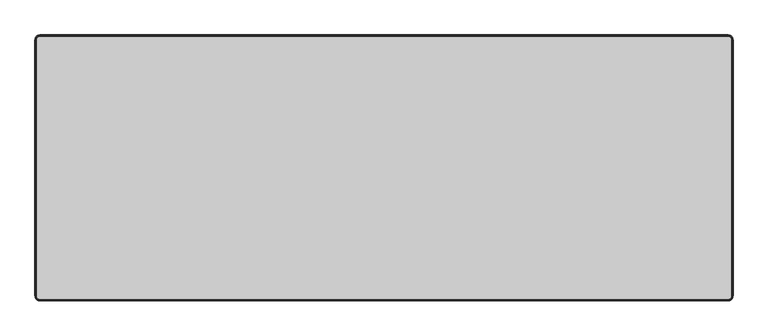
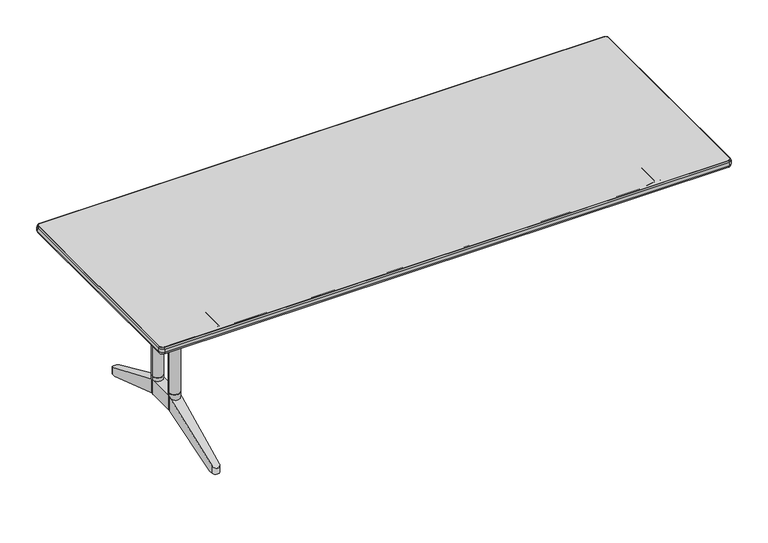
"""IFC4 building model written with IfcOpenShell, lengths in millimetres: furniture geometry."""

from ifc_helpers import new_model, si_unit, point, frame, frame_2d, origin, place, context, project, spatial, polyline, circle_curve, ellipse_curve, trimmed, segment, composite_curve, outline, extrude, source, transform, mapped, element, save
from ifc_brep_helpers import plane_surface, cylinder_surface, revolved_surface, advanced_brep


def furniture_6e6cd4ee(model_context):
    return source(origin(), model_context, "Body", "SolidModel", [
        extrude(outline(composite_curve([segment(trimmed(circle_curve(frame_2d((-812.8, -154.0488451)), 20.0), [point((-832.8, -154.0488451))], [point((-792.8, -154.0488451))], False, "CARTESIAN"), True, "CONTINUOUS"), segment(trimmed(circle_curve(frame_2d((-812.8, -154.0488451)), 20.0), [point((-792.8, -154.0488451))], [point((-832.8, -154.0488451))], False, "CARTESIAN"), True, "CONTINUOUS")], self_intersect=False)), frame((0.0, 0.0, 193.3080085), z_axis=(0.0, 0.0, 1.0), x_axis=(1.0, 0.0, 0.0)), (0.0, 0.0, 1.0), 68.8536941),
        extrude(outline(composite_curve([segment(trimmed(circle_curve(frame_2d((-812.8, -44.0488461)), 20.0), [point((-832.8, -44.0488461))], [point((-792.8, -44.0488461))], False, "CARTESIAN"), True, "CONTINUOUS"), segment(trimmed(circle_curve(frame_2d((-812.8, -44.0488461)), 20.0), [point((-792.8, -44.0488461))], [point((-832.8, -44.0488461))], False, "CARTESIAN"), True, "CONTINUOUS")], self_intersect=False)), frame((0.0, 0.0, 193.3080085), z_axis=(0.0, 0.0, 1.0), x_axis=(1.0, 0.0, 0.0)), (0.0, 0.0, 1.0), 68.8536941),
        extrude(outline(composite_curve([segment(trimmed(circle_curve(frame_2d((-812.8, -154.0488451)), 20.0), [point((-832.8, -154.0488451))], [point((-792.8, -154.0488451))], False, "CARTESIAN"), True, "CONTINUOUS"), segment(trimmed(circle_curve(frame_2d((-812.8, -154.0488451)), 20.0), [point((-792.8, -154.0488451))], [point((-832.8, -154.0488451))], False, "CARTESIAN"), True, "CONTINUOUS")], self_intersect=False)), frame((0.0, 0.0, 262.1617027), z_axis=(0.0, 0.0, 1.0), x_axis=(1.0, 0.0, 0.0)), (0.0, 0.0, 1.0), 318.0882973),
        extrude(outline(composite_curve([segment(trimmed(circle_curve(frame_2d((-812.8, -44.0488461)), 20.0), [point((-832.8, -44.0488461))], [point((-792.8, -44.0488461))], False, "CARTESIAN"), True, "CONTINUOUS"), segment(trimmed(circle_curve(frame_2d((-812.8, -44.0488461)), 20.0), [point((-792.8, -44.0488461))], [point((-832.8, -44.0488461))], False, "CARTESIAN"), True, "CONTINUOUS")], self_intersect=False)), frame((0.0, 0.0, 262.1617027), z_axis=(0.0, 0.0, 1.0), x_axis=(1.0, 0.0, 0.0)), (0.0, 0.0, 1.0), 318.0882973),
        extrude(outline(polyline([(-786.7999882, 147.9511612), (-786.7999882, -352.0488426), (-838.8000118, -352.0488426), (-838.8000118, 147.9511612), (-786.7999882, 147.9511612)])), frame((0.0, 0.0, 676.2500168), z_axis=(0.0, 0.0, 1.0), x_axis=(1.0, 0.0, 0.0)), (0.0, 0.0, 1.0), 27.9999624),
        advanced_brep(
        [(-827.7998762, -140.8200278, 676.2500168), (-797.7998905, -140.8201331, 676.2500168), (-797.7998905, -134.0488456, 676.2500168), (-827.7998762, -134.0488456, 676.2500168), (-797.7998905, -57.2775581, 676.2500168), (-827.7998762, -57.2776634, 676.2500168), (-827.7998762, -64.0488456, 676.2500168), (-797.7998905, -64.0488456, 676.2500168), (-827.7998762, -57.2776634, 580.25), (-797.7998905, -57.2775581, 580.25), (-797.7998905, -140.8201331, 580.25), (-827.7998762, -140.8200278, 580.25), (-827.7998762, -134.0488456, 598.2500176), (-827.7998762, -64.0488456, 598.2500176), (-797.7998905, -64.0488456, 598.2500176), (-797.7998905, -134.0488456, 598.2500176)],
        [
            (0, 1, circle_curve(frame((-812.7999298, -154.0488451, 676.2500168), z_axis=(0.0, 0.0, 1.0), x_axis=(1.0, 0.0, 0.0)), 20.0)),
            (1, 2),
            (2, 3),
            (3, 0),
            (4, 5, circle_curve(frame((-812.7999298, -44.0488461, 676.2500168), z_axis=(0.0, 0.0, 1.0), x_axis=(1.0, 0.0, 0.0)), 20.0)),
            (5, 6),
            (6, 7),
            (7, 4),
            (8, 9, circle_curve(frame((-812.7999298, -44.0488461, 580.25), z_axis=(0.0, 0.0, -1.0), x_axis=(1.0, 0.0, 0.0)), 20.0)),
            (9, 10),
            (10, 11, circle_curve(frame((-812.7999298, -154.0488451, 580.25), z_axis=(0.0, 0.0, -1.0), x_axis=(1.0, 0.0, 0.0)), 20.0)),
            (11, 8),
            (11, 0),
            (3, 12),
            (12, 13),
            (13, 6),
            (5, 8),
            (10, 1),
            (9, 4),
            (7, 14),
            (14, 15),
            (15, 2),
            (15, 12),
            (14, 13),
        ],
        [
            plane_surface(frame((-827.7998762, -140.8200278, 676.2500168), z_axis=(0.0, 0.0, 1.0), x_axis=(0.0, -1.0, 0.0))),
            plane_surface(frame((-827.7998762, -140.8200278, 580.25), z_axis=(0.0, 0.0, -1.0), x_axis=(0.0, 1.0, 0.0))),
            plane_surface(frame((-827.7998762, -57.2776634, 676.2500168), z_axis=(-1.0, 0.0, 0.0), x_axis=(0.0, 0.0, -1.0))),
            cylinder_surface(frame((-812.7999298, -154.0488451, 580.25), z_axis=(0.0, 0.0, 1.0), x_axis=(1.0, 0.0, 0.0)), 20.0),
            plane_surface(frame((-797.7998905, -140.8201331, 676.2500168), z_axis=(1.0, 0.0, 0.0), x_axis=(0.0, 0.0, -1.0))),
            cylinder_surface(frame((-812.7999298, -44.0488461, 580.25), z_axis=(0.0, 0.0, 1.0), x_axis=(1.0, 0.0, 0.0)), 20.0),
            plane_surface(frame((-797.7998905, -134.0488456, 676.2500168), z_axis=(0.0, 1.0, 0.0), x_axis=(-1.0, 0.0, 0.0))),
            plane_surface(frame((-797.7998905, -134.0488456, 598.2500176), z_axis=(0.0, 0.0, 1.0), x_axis=(-1.0, 0.0, 0.0))),
            plane_surface(frame((-797.7998905, -64.0488456, 598.2500176), z_axis=(0.0, -1.0, 0.0), x_axis=(-1.0, 0.0, 0.0))),
        ],
        [
            (0, [[1, 2, 3, 4]]),
            (0, [[5, 6, 7, 8]]),
            (1, [[9, 10, 11, 12]]),
            (2, [[-12, 13, -4, 14, 15, 16, -6, 17]]),
            (3, [[-1, -13, -11, 18]]),
            (4, [[-10, 19, -8, 20, 21, 22, -2, -18]]),
            (5, [[-5, -19, -9, -17]]),
            (6, [[23, -14, -3, -22]]),
            (7, [[-23, -21, 24, -15]]),
            (8, [[-24, -20, -7, -16]]),
        ],
    ),
        advanced_brep(
        [(-792.8000182, -154.0488451, 248.3080085), (-792.8000182, -44.0488461, 248.3080085), (-832.8000182, -44.0488461, 248.3080085), (-832.8000182, -154.0488451, 248.3080085), (-832.8000182, -44.0488461, 193.3080085), (-832.8000182, -154.0488451, 193.3080085), (-792.8000182, -154.0488451, 193.3080085), (-792.8000182, -44.0488461, 193.3080085), (-799.3271049, 208.4135103, 105.0), (-826.272897, 208.4135103, 105.0), (-825.9262294, 221.8222582, 105.0), (-799.6737706, 221.8222564, 105.0), (-825.9262294, 221.8222582, 133.4205559), (-799.6737706, 221.8222564, 133.4205567), (-793.0000412, -36.3121196, 193.3080085), (-832.5999941, -36.3121196, 193.3080085), (-799.6737706, -419.9199475, 133.4205567), (-825.9262294, -419.9199493, 133.4205559), (-799.6737706, -419.9199475, 105.0), (-799.3271049, -406.5112014, 105.0), (-793.0000412, -161.7855715, 193.3080085), (-825.9262294, -419.9199493, 105.0), (-832.5999941, -161.7855715, 193.3080085), (-826.272897, -406.5112014, 105.0)],
        [
            (0, 1),
            (1, 2),
            (2, 3),
            (3, 0),
            (2, 4),
            (4, 5),
            (5, 3),
            (0, 6),
            (6, 7),
            (7, 1),
            (8, 9),
            (9, 10),
            (10, 11, circle_curve(frame((-812.8, 221.4828948, 105.0), z_axis=(0.0, 0.0, -1.0), x_axis=(1.0, 0.0, 0.0)), 13.1306156)),
            (11, 8),
            (12, 2),
            (1, 13),
            (13, 12, ellipse_curve(frame((-812.8, 221.4828948, 133.5672007), z_axis=(0.0, 0.3966672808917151, 0.9179624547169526), x_axis=(0.0, 0.9179624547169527, -0.39666728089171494)), 14.3040878, 13.1306156)),
            (8, 14),
            (14, 15),
            (15, 9),
            (16, 0),
            (3, 17),
            (17, 16, ellipse_curve(frame((-812.8, -419.5805859, 133.5672007), z_axis=(0.0, -0.3966672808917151, 0.9179624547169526), x_axis=(0.0, -0.9179624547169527, -0.39666728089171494)), 14.3040878, 13.1306156)),
            (16, 18),
            (18, 19),
            (19, 20),
            (20, 6),
            (17, 21),
            (21, 18, circle_curve(frame((-812.8, -419.5805859, 105.0), z_axis=(0.0, 0.0, 1.0), x_axis=(1.0, 0.0, 0.0)), 13.1306156)),
            (5, 22),
            (22, 23),
            (23, 21),
            (12, 10),
            (15, 4),
            (13, 11),
            (7, 14),
            (23, 19),
            (22, 20),
        ],
        [
            plane_surface(frame((-792.8000182, -44.0488461, 248.3080085), z_axis=(0.0, 0.0, 1.0), x_axis=(0.0, 1.0, 0.0))),
            plane_surface(frame((-832.8000182, -44.0488461, 248.3080085), z_axis=(-1.0, 0.0, 0.0), x_axis=(0.0, 0.0, -1.0))),
            plane_surface(frame((-792.8000182, -154.0488451, 248.3080085), z_axis=(1.0, 0.0, 0.0), x_axis=(0.0, 0.0, -1.0))),
            plane_surface(frame((-791.4205415, 208.4135103, 105.0), z_axis=(0.0, 0.0, -1.0), x_axis=(-1.0, 0.0, 0.0))),
            plane_surface(frame((-791.4205415, 235.9511544, 127.3152182), z_axis=(0.0, 0.3966672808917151, 0.9179624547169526), x_axis=(-1.0, 0.0, 0.0))),
            plane_surface(frame((-791.4205415, -36.3121196, 193.3080085), z_axis=(0.0, -0.3394229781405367, -0.9406338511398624), x_axis=(-1.0, 0.0, 0.0))),
            plane_surface(frame((-791.4205415, -154.0488451, 248.3080085), z_axis=(0.0, -0.3966672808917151, 0.9179624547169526), x_axis=(-1.0, 0.0, 0.0))),
            plane_surface(frame((-792.8000182, -154.0488451, 249.0000084), z_axis=(0.9996659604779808, -0.025845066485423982, 0.0), x_axis=(0.0, 0.0, -1.0))),
            cylinder_surface(frame((-812.8, -419.5805859, 90.0000025), z_axis=(0.0, 0.0, -1.0), x_axis=(1.0, 0.0, 0.0)), 13.1306156),
            plane_surface(frame((-825.9262294, -419.9199493, 249.0000084), z_axis=(-0.9996659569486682, -0.025845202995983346, 0.0), x_axis=(0.0, 0.0, -1.0))),
            plane_surface(frame((-832.8000182, -44.0488461, 249.0000084), z_axis=(-0.9996659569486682, 0.025845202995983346, 0.0), x_axis=(0.0, 0.0, -1.0))),
            cylinder_surface(frame((-812.8, 221.4828948, 0.0), z_axis=(0.0, 0.0, -1.0), x_axis=(1.0, 0.0, 0.0)), 13.1306156),
            plane_surface(frame((-799.6737706, 221.8222564, 249.0000084), z_axis=(0.9996659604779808, 0.025845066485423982, 0.0), x_axis=(0.0, 0.0, -1.0))),
            plane_surface(frame((-791.4205415, -434.0488456, 105.0), z_axis=(0.0, 0.0, -1.0), x_axis=(-1.0, 0.0, 0.0))),
            plane_surface(frame((-791.4205415, -406.5112014, 105.0), z_axis=(0.0, 0.3394229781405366, -0.9406338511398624), x_axis=(-1.0, 0.0, 0.0))),
            plane_surface(frame((-791.4205415, -44.0488461, 193.3080085), z_axis=(0.0, 0.0, -1.0), x_axis=(-1.0, 0.0, 0.0))),
        ],
        [
            (0, [[1, 2, 3, 4]]),
            (1, [[-3, 5, 6, 7]]),
            (2, [[-1, 8, 9, 10]]),
            (3, [[11, 12, 13, 14]]),
            (4, [[15, -2, 16, 17]]),
            (5, [[-11, 18, 19, 20]]),
            (6, [[21, -4, 22, 23]]),
            (7, [[24, 25, 26, 27, -8, -21]]),
            (8, [[-24, -23, 28, 29]]),
            (9, [[-28, -22, -7, 30, 31, 32]]),
            (10, [[33, -12, -20, 34, -5, -15]]),
            (11, [[-33, -17, 35, -13]]),
            (12, [[-35, -16, -10, 36, -18, -14]]),
            (13, [[37, -25, -29, -32]]),
            (14, [[-37, -31, 38, -26]]),
            (15, [[-19, -36, -9, -27, -38, -30, -6, -34]]),
        ],
    ),
        extrude(outline(composite_curve([segment(trimmed(circle_curve(frame_2d((-1051.8, 292.3511544)), 10.0), [point((-1061.8, 292.3511544))], [point((-1051.8, 302.3511544))], False, "CARTESIAN"), True, "CONTINUOUS"), segment(polyline([(-1051.8, 302.3511544), (1051.8, 302.3511544)]), True, "CONTINUOUS"), segment(trimmed(circle_curve(frame_2d((1051.8, 292.3511544)), 10.0), [point((1051.8, 302.3511544))], [point((1061.8, 292.3511544))], False, "CARTESIAN"), True, "CONTINUOUS"), segment(polyline([(1061.8, 292.3511544), (1061.8, -490.4488456)]), True, "CONTINUOUS"), segment(trimmed(circle_curve(frame_2d((1051.8, -490.4488456)), 10.0), [point((1061.8, -490.4488456))], [point((1051.8, -500.4488456))], False, "CARTESIAN"), True, "CONTINUOUS"), segment(polyline([(1051.8, -500.4488456), (-1051.8, -500.4488456)]), True, "CONTINUOUS"), segment(trimmed(circle_curve(frame_2d((-1051.8, -490.4488456)), 10.0), [point((-1051.8, -500.4488456))], [point((-1061.8, -490.4488456))], False, "CARTESIAN"), True, "CONTINUOUS"), segment(polyline([(-1061.8, -490.4488456), (-1061.8, 292.3511544)]), True, "CONTINUOUS")], self_intersect=False)), frame((0.0, 0.0, 704.2499792), z_axis=(0.0, 0.0, 1.0), x_axis=(1.0, 0.0, 0.0)), (0.0, 0.0, 1.0), 26.0000208),
        extrude(outline(composite_curve([segment(trimmed(circle_curve(frame_2d((690.249998, -812.8)), 3.5), [point((686.749998, -812.8))], [point((693.749998, -812.8))], False, "CARTESIAN"), True, "CONTINUOUS"), segment(trimmed(circle_curve(frame_2d((690.249998, -812.8)), 3.5), [point((693.749998, -812.8))], [point((686.749998, -812.8))], False, "CARTESIAN"), True, "CONTINUOUS")], self_intersect=False)), frame((0.0, -431.8394749, 0.0), z_axis=(0.0, 1.0, 0.0), x_axis=(0.0, 0.0, 1.0)), (0.0, 0.0, 1.0), 79.7906323),
        extrude(outline(composite_curve([segment(trimmed(circle_curve(frame_2d((690.249998, 812.8)), 3.5), [point((686.749998, 812.8))], [point((693.749998, 812.8))], False, "CARTESIAN"), True, "CONTINUOUS"), segment(trimmed(circle_curve(frame_2d((690.249998, 812.8)), 3.5), [point((693.749998, 812.8))], [point((686.749998, 812.8))], False, "CARTESIAN"), True, "CONTINUOUS")], self_intersect=False)), frame((0.0, -431.8394749, 0.0), z_axis=(0.0, 1.0, 0.0), x_axis=(0.0, 0.0, 1.0)), (0.0, 0.0, 1.0), 79.7906323),
        advanced_brep(
        [(-1051.8, -500.4488456, 704.2499792), (-1061.8, -490.4488456, 704.2499792), (-1061.8, -490.4488456, 730.25), (-1051.8, -500.4488456, 730.25), (-1051.8, -503.8983863, 710.6562743), (-1065.2495407, -490.4488456, 710.6562743), (-1063.0436764, -490.4488456, 704.2499792), (-1051.8, -501.692522, 704.2499792), (-1051.8, -503.8983863, 723.843705), (-1065.2495407, -490.4488456, 723.843705), (-1051.8, -501.692522, 730.25), (-1063.0436764, -490.4488456, 730.25), (1051.8, -500.4488456, 730.25), (1051.8, -500.4488456, 704.2499792), (1051.8, -501.692522, 704.2499792), (1051.8, -503.8983863, 710.6562743), (1051.8, -503.8983863, 723.843705), (1051.8, -501.692522, 730.25), (1061.8, -490.4488456, 704.2499792), (1061.8, -490.4488456, 730.25), (1065.2495407, -490.4488456, 710.6562743), (1063.0436764, -490.4488456, 704.2499792), (1065.2495407, -490.4488456, 723.843705), (1063.0436764, -490.4488456, 730.25), (1061.8, 292.3511544, 730.25), (1061.8, 292.3511544, 704.2499792), (1063.0436764, 292.3511544, 704.2499792), (1065.2495407, 292.3511544, 710.6562743), (1065.2495407, 292.3511544, 723.843705), (1063.0436764, 292.3511544, 730.25), (1051.8, 302.3511544, 704.2499792), (1051.8, 302.3511544, 730.25), (1051.8, 305.8006952, 710.6562743), (1051.8, 303.5948309, 704.2499792), (1051.8, 305.8006952, 723.843705), (1051.8, 303.5948309, 730.25), (-1051.8, 302.3511544, 730.25), (-1051.8, 302.3511544, 704.2499792), (-1051.8, 303.5948309, 704.2499792), (-1051.8, 305.8006952, 710.6562743), (-1051.8, 305.8006952, 723.843705), (-1051.8, 303.5948309, 730.25), (-1061.8, 292.3511544, 704.2499792), (-1061.8, 292.3511544, 730.25), (-1065.2495407, 292.3511544, 710.6562743), (-1063.0436764, 292.3511544, 704.2499792), (-1065.2495407, 292.3511544, 723.843705), (-1063.0436764, 292.3511544, 730.25)],
        [
            (0, 1, circle_curve(frame((-1051.8, -490.4488456, 704.2499792), z_axis=(0.0, 0.0, -1.0), x_axis=(-1.0, 0.0, 0.0)), 10.0)),
            (1, 2),
            (2, 3, circle_curve(frame((-1051.8, -490.4488456, 730.25), z_axis=(0.0, 0.0, 1.0), x_axis=(-1.0, 0.0, 0.0)), 10.0)),
            (3, 0),
            (4, 5, circle_curve(frame((-1051.8, -490.4488456, 710.6562743), z_axis=(0.0, 0.0, -1.0), x_axis=(-1.0, 0.0, 0.0)), 13.4495407)),
            (5, 6),
            (6, 7, circle_curve(frame((-1051.8, -490.4488456, 704.2499792), z_axis=(0.0, 0.0, 1.0), x_axis=(-1.0, 0.0, 0.0)), 11.2436764)),
            (7, 4),
            (8, 9, circle_curve(frame((-1051.8, -490.4488456, 723.843705), z_axis=(0.0, 0.0, -1.0), x_axis=(-1.0, 0.0, 0.0)), 13.4495407)),
            (9, 5, circle_curve(frame((-1052.0040596, -490.4488456, 717.2499896), z_axis=(0.0, -1.0, 0.0), x_axis=(1.0, 0.0, 0.0)), 14.7959404)),
            (4, 8, circle_curve(frame((-1051.8, -490.6529051, 717.2499896), z_axis=(-1.0, 0.0, 0.0), x_axis=(0.0, 1.0, 0.0)), 14.7959404)),
            (10, 11, circle_curve(frame((-1051.8, -490.4488456, 730.25), z_axis=(0.0, 0.0, -1.0), x_axis=(-1.0, 0.0, 0.0)), 11.2436764)),
            (11, 9),
            (8, 10),
            (3, 12),
            (12, 13),
            (13, 0),
            (7, 14),
            (14, 15),
            (15, 4),
            (15, 16, circle_curve(frame((1051.8, -490.6529051, 717.2499896), z_axis=(-1.0, 0.0, 0.0), x_axis=(0.0, 1.0, 0.0)), 14.7959404)),
            (16, 8),
            (16, 17),
            (17, 10),
            (18, 13, circle_curve(frame((1051.8, -490.4488456, 704.2499792), z_axis=(0.0, 0.0, -1.0), x_axis=(0.0, -1.0, 0.0)), 10.0)),
            (12, 19, circle_curve(frame((1051.8, -490.4488456, 730.25), z_axis=(0.0, 0.0, 1.0), x_axis=(0.0, -1.0, 0.0)), 10.0)),
            (19, 18),
            (20, 15, circle_curve(frame((1051.8, -490.4488456, 710.6562743), z_axis=(0.0, 0.0, -1.0), x_axis=(0.0, -1.0, 0.0)), 13.4495407)),
            (14, 21, circle_curve(frame((1051.8, -490.4488456, 704.2499792), z_axis=(0.0, 0.0, 1.0), x_axis=(0.0, -1.0, 0.0)), 11.2436764)),
            (21, 20),
            (22, 16, circle_curve(frame((1051.8, -490.4488456, 723.843705), z_axis=(0.0, 0.0, -1.0), x_axis=(0.0, -1.0, 0.0)), 13.4495407)),
            (20, 22, circle_curve(frame((1052.0040596, -490.4488456, 717.2499896), z_axis=(0.0, -1.0, 0.0), x_axis=(-1.0, 0.0, 0.0)), 14.7959404)),
            (23, 17, circle_curve(frame((1051.8, -490.4488456, 730.25), z_axis=(0.0, 0.0, -1.0), x_axis=(0.0, -1.0, 0.0)), 11.2436764)),
            (22, 23),
            (19, 24),
            (24, 25),
            (25, 18),
            (21, 26),
            (26, 27),
            (27, 20),
            (27, 28, circle_curve(frame((1052.0040596, 292.3511544, 717.2499896), z_axis=(0.0, -1.0, 0.0), x_axis=(-1.0, 0.0, 0.0)), 14.7959404)),
            (28, 22),
            (28, 29),
            (29, 23),
            (30, 25, circle_curve(frame((1051.8, 292.3511544, 704.2499792), z_axis=(0.0, 0.0, -1.0), x_axis=(1.0, 0.0, 0.0)), 10.0)),
            (24, 31, circle_curve(frame((1051.8, 292.3511544, 730.25), z_axis=(0.0, 0.0, 1.0), x_axis=(1.0, 0.0, 0.0)), 10.0)),
            (31, 30),
            (32, 27, circle_curve(frame((1051.8, 292.3511544, 710.6562743), z_axis=(0.0, 0.0, -1.0), x_axis=(1.0, 0.0, 0.0)), 13.4495407)),
            (26, 33, circle_curve(frame((1051.8, 292.3511544, 704.2499792), z_axis=(0.0, 0.0, 1.0), x_axis=(1.0, 0.0, 0.0)), 11.2436764)),
            (33, 32),
            (34, 28, circle_curve(frame((1051.8, 292.3511544, 723.843705), z_axis=(0.0, 0.0, -1.0), x_axis=(1.0, 0.0, 0.0)), 13.4495407)),
            (32, 34, circle_curve(frame((1051.8, 292.555214, 717.2499896), z_axis=(1.0, 0.0, 0.0), x_axis=(0.0, -1.0, 0.0)), 14.7959404)),
            (35, 29, circle_curve(frame((1051.8, 292.3511544, 730.25), z_axis=(0.0, 0.0, -1.0), x_axis=(1.0, 0.0, 0.0)), 11.2436764)),
            (34, 35),
            (31, 36),
            (36, 37),
            (37, 30),
            (33, 38),
            (38, 39),
            (39, 32),
            (39, 40, circle_curve(frame((-1051.8, 292.555214, 717.2499896), z_axis=(1.0, 0.0, 0.0), x_axis=(0.0, -1.0, 0.0)), 14.7959404)),
            (40, 34),
            (40, 41),
            (41, 35),
            (42, 37, circle_curve(frame((-1051.8, 292.3511544, 704.2499792), z_axis=(0.0, 0.0, -1.0), x_axis=(0.0, 1.0, 0.0)), 10.0)),
            (36, 43, circle_curve(frame((-1051.8, 292.3511544, 730.25), z_axis=(0.0, 0.0, 1.0), x_axis=(0.0, 1.0, 0.0)), 10.0)),
            (43, 42),
            (44, 39, circle_curve(frame((-1051.8, 292.3511544, 710.6562743), z_axis=(0.0, 0.0, -1.0), x_axis=(0.0, 1.0, 0.0)), 13.4495407)),
            (38, 45, circle_curve(frame((-1051.8, 292.3511544, 704.2499792), z_axis=(0.0, 0.0, 1.0), x_axis=(0.0, 1.0, 0.0)), 11.2436764)),
            (45, 44),
            (46, 40, circle_curve(frame((-1051.8, 292.3511544, 723.843705), z_axis=(0.0, 0.0, -1.0), x_axis=(0.0, 1.0, 0.0)), 13.4495407)),
            (44, 46, circle_curve(frame((-1052.0040596, 292.3511544, 717.2499896), z_axis=(0.0, 1.0, 0.0), x_axis=(1.0, 0.0, 0.0)), 14.7959404)),
            (47, 41, circle_curve(frame((-1051.8, 292.3511544, 730.25), z_axis=(0.0, 0.0, -1.0), x_axis=(0.0, 1.0, 0.0)), 11.2436764)),
            (46, 47),
            (43, 2),
            (1, 42),
            (45, 6),
            (5, 44),
            (9, 46),
            (11, 47),
        ],
        [
            revolved_surface(polyline([(-1061.8, -490.4488456, 730.25), (-1061.8, -490.4488456, 704.2499792)]), (-1051.8, -490.4488456, 730.25), (0.0, 0.0, 1.0)),
            revolved_surface(polyline([(-1063.0436764, -490.4488456, 704.2499792), (-1065.2495407, -490.4488456, 710.6562743)]), (-1051.8, -490.4488456, 730.25), (0.0, 0.0, 1.0)),
            revolved_surface(trimmed(ellipse_curve(frame((-1052.0040596, -490.4488456, 717.2499896), z_axis=(0.0, 1.0, 0.0), x_axis=(1.0, 0.0, 0.0)), 14.7959404, 14.7959404), [point((-1065.2495407, -490.4488456, 710.6562743))], [point((-1065.2495407, -490.4488456, 723.843705))], True, "CARTESIAN"), (-1051.8, -490.4488456, 730.25), (0.0, 0.0, 1.0)),
            revolved_surface(polyline([(-1065.2495407, -490.4488456, 723.843705), (-1063.0436764, -490.4488456, 730.25)]), (-1051.8, -490.4488456, 730.25), (0.0, 0.0, 1.0)),
            plane_surface(frame((-1051.8, -500.4488456, 730.25), z_axis=(0.0, 1.0, 0.0), x_axis=(1.0, 0.0, 0.0))),
            plane_surface(frame((-1051.8, -501.692522, 704.2499792), z_axis=(0.0, -0.9455185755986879, -0.32556815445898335), x_axis=(1.0, 0.0, 0.0))),
            cylinder_surface(frame((-1051.8, -490.6529051, 717.2499896), z_axis=(-1.0, 0.0, 0.0), x_axis=(0.0, 1.0, 0.0)), 14.7959404),
            plane_surface(frame((-1051.8, -503.8983863, 723.843705), z_axis=(0.0, -0.945518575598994, 0.32556815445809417), x_axis=(1.0, 0.0, 0.0))),
            revolved_surface(polyline([(1051.8, -500.4488456, 730.25), (1051.8, -500.4488456, 704.2499792)]), (1051.8, -490.4488456, 730.25), (0.0, 0.0, 1.0)),
            revolved_surface(polyline([(1051.8, -501.692522, 704.2499792), (1051.8, -503.8983863, 710.6562743)]), (1051.8, -490.4488456, 730.25), (0.0, 0.0, 1.0)),
            revolved_surface(trimmed(ellipse_curve(frame((1051.8, -490.6529051, 717.2499896), z_axis=(-1.0, 0.0, 0.0), x_axis=(0.0, 1.0, 0.0)), 14.7959404, 14.7959404), [point((1051.8, -503.8983863, 710.6562743))], [point((1051.8, -503.8983863, 723.843705))], True, "CARTESIAN"), (1051.8, -490.4488456, 730.25), (0.0, 0.0, 1.0)),
            revolved_surface(polyline([(1051.8, -503.8983863, 723.843705), (1051.8, -501.692522, 730.25)]), (1051.8, -490.4488456, 730.25), (0.0, 0.0, 1.0)),
            plane_surface(frame((1061.8, -490.4488456, 730.25), z_axis=(-1.0, 0.0, 0.0), x_axis=(0.0, 1.0, 0.0))),
            plane_surface(frame((1063.0436764, -490.4488456, 704.2499792), z_axis=(0.9455185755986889, 0.0, -0.32556815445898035), x_axis=(0.0, 1.0, 0.0))),
            cylinder_surface(frame((1052.0040596, -490.4488456, 717.2499896), z_axis=(0.0, -1.0, 0.0), x_axis=(-1.0, 0.0, 0.0)), 14.7959404),
            plane_surface(frame((1065.2495407, -490.4488456, 723.843705), z_axis=(0.945518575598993, 0.0, 0.32556815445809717), x_axis=(0.0, 1.0, 0.0))),
            revolved_surface(polyline([(1061.8, 292.3511544, 730.25), (1061.8, 292.3511544, 704.2499792)]), (1051.8, 292.3511544, 730.25), (0.0, 0.0, 1.0)),
            revolved_surface(polyline([(1063.0436764, 292.3511544, 704.2499792), (1065.2495407, 292.3511544, 710.6562743)]), (1051.8, 292.3511544, 730.25), (0.0, 0.0, 1.0)),
            revolved_surface(trimmed(ellipse_curve(frame((1052.0040596, 292.3511544, 717.2499896), z_axis=(0.0, -1.0, 0.0), x_axis=(-1.0, 0.0, 0.0)), 14.7959404, 14.7959404), [point((1065.2495407, 292.3511544, 710.6562743))], [point((1065.2495407, 292.3511544, 723.843705))], True, "CARTESIAN"), (1051.8, 292.3511544, 730.25), (0.0, 0.0, 1.0)),
            revolved_surface(polyline([(1065.2495407, 292.3511544, 723.843705), (1063.0436764, 292.3511544, 730.25)]), (1051.8, 292.3511544, 730.25), (0.0, 0.0, 1.0)),
            plane_surface(frame((1051.8, 302.3511544, 730.25), z_axis=(0.0, -1.0, 0.0), x_axis=(-1.0, 0.0, 0.0))),
            plane_surface(frame((1051.8, 303.5948309, 704.2499792), z_axis=(0.0, 0.9455185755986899, -0.32556815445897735), x_axis=(-1.0, 0.0, 0.0))),
            cylinder_surface(frame((1051.8, 292.555214, 717.2499896), z_axis=(1.0, 0.0, 0.0), x_axis=(0.0, -1.0, 0.0)), 14.7959404),
            plane_surface(frame((1051.8, 305.8006952, 723.843705), z_axis=(0.0, 0.945518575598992, 0.32556815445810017), x_axis=(-1.0, 0.0, 0.0))),
            revolved_surface(polyline([(-1051.8, 302.3511544, 730.25), (-1051.8, 302.3511544, 704.2499792)]), (-1051.8, 292.3511544, 730.25), (0.0, 0.0, 1.0)),
            revolved_surface(polyline([(-1051.8, 303.5948309, 704.2499792), (-1051.8, 305.8006952, 710.6562743)]), (-1051.8, 292.3511544, 730.25), (0.0, 0.0, 1.0)),
            revolved_surface(trimmed(ellipse_curve(frame((-1051.8, 292.555214, 717.2499896), z_axis=(1.0, 0.0, 0.0), x_axis=(0.0, -1.0, 0.0)), 14.7959404, 14.7959404), [point((-1051.8, 305.8006952, 710.6562743))], [point((-1051.8, 305.8006952, 723.843705))], True, "CARTESIAN"), (-1051.8, 292.3511544, 730.25), (0.0, 0.0, 1.0)),
            revolved_surface(polyline([(-1051.8, 305.8006952, 723.843705), (-1051.8, 303.5948309, 730.25)]), (-1051.8, 292.3511544, 730.25), (0.0, 0.0, 1.0)),
            plane_surface(frame((-1061.8, 292.3511544, 730.25), z_axis=(1.0, 0.0, 0.0), x_axis=(0.0, -1.0, 0.0))),
            plane_surface(frame((-1063.0436764, 292.3511544, 704.2499792), z_axis=(-0.9455185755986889, 0.0, -0.32556815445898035), x_axis=(0.0, -1.0, 0.0))),
            cylinder_surface(frame((-1052.0040596, 292.3511544, 717.2499896), z_axis=(0.0, 1.0, 0.0), x_axis=(1.0, 0.0, 0.0)), 14.7959404),
            plane_surface(frame((-1065.2495407, 292.3511544, 723.843705), z_axis=(-0.945518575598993, 0.0, 0.32556815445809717), x_axis=(0.0, -1.0, 0.0))),
            plane_surface(frame((-1061.8, 292.3511544, 704.2499792), z_axis=(0.0, 0.0, -1.0), x_axis=(0.0, -1.0, 0.0))),
            plane_surface(frame((-1063.0436764, 292.3511544, 730.25), z_axis=(0.0, 0.0, 1.0), x_axis=(0.0, -1.0, 0.0))),
        ],
        [
            (0, [[1, 2, 3, 4]]),
            (1, [[5, 6, 7, 8]]),
            (2, [[9, 10, -5, 11]]),
            (3, [[12, 13, -9, 14]]),
            (4, [[-4, 15, 16, 17]]),
            (5, [[-8, 18, 19, 20]]),
            (6, [[-11, -20, 21, 22]]),
            (7, [[-14, -22, 23, 24]]),
            (8, [[25, -16, 26, 27]]),
            (9, [[28, -19, 29, 30]]),
            (10, [[31, -21, -28, 32]]),
            (11, [[33, -23, -31, 34]]),
            (12, [[-27, 35, 36, 37]]),
            (13, [[-30, 38, 39, 40]]),
            (14, [[-32, -40, 41, 42]]),
            (15, [[-34, -42, 43, 44]]),
            (16, [[45, -36, 46, 47]]),
            (17, [[48, -39, 49, 50]]),
            (18, [[51, -41, -48, 52]]),
            (19, [[53, -43, -51, 54]]),
            (20, [[-47, 55, 56, 57]]),
            (21, [[-50, 58, 59, 60]]),
            (22, [[-52, -60, 61, 62]]),
            (23, [[-54, -62, 63, 64]]),
            (24, [[65, -56, 66, 67]]),
            (25, [[68, -59, 69, 70]]),
            (26, [[71, -61, -68, 72]]),
            (27, [[73, -63, -71, 74]]),
            (28, [[-67, 75, -2, 76]]),
            (29, [[-70, 77, -6, 78]]),
            (30, [[-72, -78, -10, 79]]),
            (31, [[-74, -79, -13, 80]]),
            (32, [[-77, -69, -58, -49, -38, -29, -18, -7], [-57, -65, -76, -1, -17, -25, -37, -45]]),
            (33, [[-64, -73, -80, -12, -24, -33, -44, -53], [-75, -66, -55, -46, -35, -26, -15, -3]]),
        ],
    ),
        advanced_brep(
        [(-838.7999286, -431.8394749, 701.9835614), (-838.7999286, -431.8394749, 686.9835614), (-757.9927788, -431.8394749, 678.983541), (-756.800359, -431.8394749, 693.983541), (756.800359, -431.8394749, 693.983541), (757.9927788, -431.8394749, 678.983541), (838.6748715, -431.8394749, 701.9835614), (838.6748715, -431.8394749, 686.9835614), (806.8003594, -431.8394749, 701.9835614), (807.9927792, -431.8394749, 686.9835614), (-806.8003594, -431.8394749, 701.9835614), (-807.9927792, -431.8394749, 686.9835614)],
        [
            (0, 1, circle_curve(frame((-838.7999286, -431.8394749, 694.4835614), z_axis=(-1.0, 0.0, 0.0), x_axis=(0.0, 0.0, -1.0)), 7.5)),
            (1, 0, circle_curve(frame((-838.7999286, -431.8394749, 694.4835614), z_axis=(-1.0, 0.0, 0.0), x_axis=(0.0, 0.0, -1.0)), 7.5)),
            (2, 3, ellipse_curve(frame((-757.3965689, -431.8394749, 686.483541), z_axis=(0.9968551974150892, 0.0, -0.07924465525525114), x_axis=(-0.07924465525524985, 0.0, -0.9968551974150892)), 7.5236604, 7.5)),
            (3, 4),
            (4, 5, ellipse_curve(frame((757.3965689, -431.8394749, 686.483541), z_axis=(-0.9968551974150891, 0.0, -0.07924465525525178), x_axis=(-0.07924465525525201, 0.0, 0.9968551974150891)), 7.5236604, 7.5)),
            (5, 2),
            (3, 2, ellipse_curve(frame((-757.3965689, -431.8394749, 686.483541), z_axis=(0.9968551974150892, 0.0, -0.07924465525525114), x_axis=(-0.07924465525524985, 0.0, -0.9968551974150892)), 7.5236604, 7.5)),
            (5, 4, ellipse_curve(frame((757.3965689, -431.8394749, 686.483541), z_axis=(-0.9968551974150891, 0.0, -0.07924465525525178), x_axis=(-0.07924465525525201, 0.0, 0.9968551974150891)), 7.5236604, 7.5)),
            (6, 7, circle_curve(frame((838.6748715, -431.8394749, 694.4835614), z_axis=(1.0, 0.0, 0.0), x_axis=(0.0, 0.0, -1.0)), 7.5)),
            (7, 6, circle_curve(frame((838.6748715, -431.8394749, 694.4835614), z_axis=(1.0, 0.0, 0.0), x_axis=(0.0, 0.0, -1.0)), 7.5)),
            (4, 8),
            (8, 9, ellipse_curve(frame((807.3965693, -431.8394749, 694.4835614), z_axis=(-0.9968551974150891, 0.0, -0.07924465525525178), x_axis=(0.07924465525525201, 0.0, -0.9968551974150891)), 7.5236604, 7.5)),
            (9, 5),
            (9, 8, ellipse_curve(frame((807.3965693, -431.8394749, 694.4835614), z_axis=(-0.9968551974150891, 0.0, -0.07924465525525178), x_axis=(0.07924465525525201, 0.0, -0.9968551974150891)), 7.5236604, 7.5)),
            (8, 6),
            (7, 9),
            (0, 10),
            (10, 11, ellipse_curve(frame((-807.3965693, -431.8394749, 694.4835614), z_axis=(-0.9968551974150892, 0.0, 0.07924465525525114), x_axis=(-0.07924465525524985, 0.0, -0.9968551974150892)), 7.5236604, 7.5)),
            (11, 1),
            (11, 10, ellipse_curve(frame((-807.3965693, -431.8394749, 694.4835614), z_axis=(-0.9968551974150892, 0.0, 0.07924465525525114), x_axis=(-0.07924465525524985, 0.0, -0.9968551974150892)), 7.5236604, 7.5)),
            (10, 3),
            (2, 11),
        ],
        [
            plane_surface(frame((-838.7999286, -505.4488456, 664.2500082), z_axis=(-1.0, 0.0, 0.0), x_axis=(0.0, 1.0, 0.0))),
            cylinder_surface(frame((-759.7999746, -431.8394749, 686.483541), z_axis=(-1.0, 0.0, 0.0), x_axis=(0.0, 0.0, -1.0)), 7.5),
            plane_surface(frame((838.6748715, -505.4488456, 664.2500082), z_axis=(1.0, 0.0, 0.0), x_axis=(0.0, 1.0, 0.0))),
            cylinder_surface(frame((755.0233486, -431.8394749, 686.1038248), z_axis=(-0.9874405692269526, 0.0, -0.15799089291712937), x_axis=(0.15799089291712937, 0.0, -0.9874405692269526)), 7.5),
            cylinder_surface(frame((809.799975, -431.8394749, 694.4835614), z_axis=(-1.0, 0.0, 0.0), x_axis=(0.0, 0.0, -1.0)), 7.5),
            cylinder_surface(frame((-838.7999286, -431.8394749, 694.4835614), z_axis=(-1.0, 0.0, 0.0), x_axis=(0.0, 0.0, -1.0)), 7.5),
            cylinder_surface(frame((-805.0233489, -431.8394749, 694.1038452), z_axis=(-0.9874405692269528, 0.0, 0.15799089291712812), x_axis=(-0.15799089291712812, 0.0, -0.9874405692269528)), 7.5),
        ],
        [
            (0, [[1, 2]]),
            (1, [[3, 4, 5, 6]]),
            (1, [[7, -6, 8, -4]]),
            (2, [[9, 10]]),
            (3, [[-5, 11, 12, 13]]),
            (3, [[-8, -13, 14, -11]]),
            (4, [[-12, 15, -10, 16]]),
            (4, [[-14, -16, -9, -15]]),
            (5, [[-1, 17, 18, 19]]),
            (5, [[-2, -19, 20, -17]]),
            (6, [[-18, 21, -3, 22]]),
            (6, [[-20, -22, -7, -21]]),
        ],
    ),
        extrude(outline(polyline([(-66.0488461, 600.2500046), (-66.0488461, 658.2500254), (-64.0488456, 658.2500254), (-64.0488456, 598.2500176), (-134.0488456, 598.2500176), (-134.0488456, 658.2500254), (-132.048845, 658.2500254), (-132.048845, 600.2500046), (-66.0488461, 600.2500046)])), frame((-827.8, 0.0, 0.0), z_axis=(1.0, 0.0, 0.0), x_axis=(0.0, 1.0, 0.0)), (0.0, 0.0, 1.0), 1655.6),
    ])


if __name__ == "__main__":
    model = new_model("IFC4")
    model_context = context("Model", 3, world=origin())
    ifc_project = project(units=[si_unit("LENGTHUNIT", "METRE", prefix="MILLI")], contexts=[model_context])
    site = spatial("IfcSite", under=ifc_project)
    building = spatial("IfcBuilding", under=site)
    placement = place(None, origin())
    furniture_shape = furniture_6e6cd4ee(model_context)
    element("IfcFurniture", 1, ObjectType="Furniture_Wilkhahn_Timetable_614-00_Shift : 32\"W x 84\"L", at=placement, inside=building, context=model_context, shape_type="MappedRepresentation", body=[
        mapped(furniture_shape, transform((0.0, 0.0, 0.0), x_axis=(1.0, 0.0, 0.0), y_axis=(0.0, 1.0, 0.0), z_axis=(0.0, 0.0, 1.0))),
    ])
    save(model, "model.ifc")
